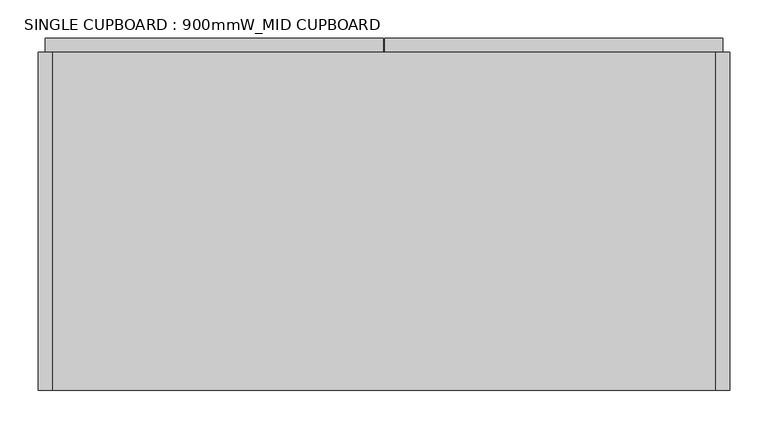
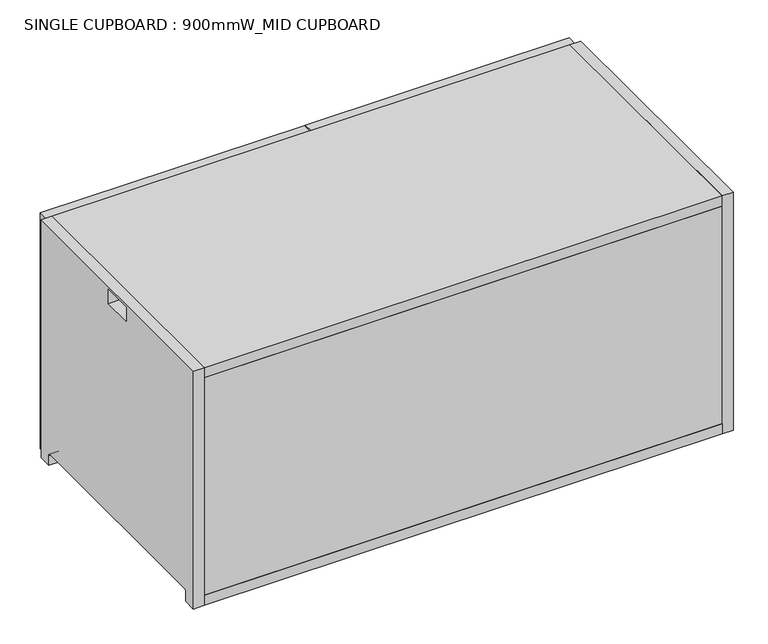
"""IFC4 building model written with IfcOpenShell, lengths in millimetres: furniture geometry, SINGLE CUPBOARD : 900mmW_MID CUPBOARD."""

from ifc_helpers import new_model, si_unit, point, frame, frame_2d, origin, place, context, project, spatial, polyline, circle_curve, trimmed, segment, composite_curve, outline, extrude, source, transform, mapped, element, save
from ifc_brep_helpers import plane_surface, revolved_surface, advanced_brep


def single_cupboard_900mmw_mid_cupboard_c5425165(model_context):
    return source(origin(), model_context, "Body", "SolidModel", [
        extrude(outline(composite_curve([segment(polyline([(220.0, 419.5), (220.0, 0.0), (198.0, 0.0), (198.0, 17.0)]), True, "CONTINUOUS"), segment(trimmed(circle_curve(frame_2d((194.0, 17.0)), 4.0), [point((198.0, 17.0))], [point((194.0, 21.0))], True, "CARTESIAN"), True, "CONTINUOUS"), segment(polyline([(194.0, 21.0), (-194.0, 21.0)]), True, "CONTINUOUS"), segment(trimmed(circle_curve(frame_2d((-194.0, 17.0)), 4.0), [point((-194.0, 21.0))], [point((-198.0, 17.0))], True, "CARTESIAN"), True, "CONTINUOUS"), segment(polyline([(-198.0, 17.0), (-198.0, 0.0), (-220.0, 0.0), (-220.0, 419.5), (220.0, 419.5)]), True, "CONTINUOUS")], self_intersect=False), holes=[polyline([(26.0, 414.5), (-26.0, 414.5), (-26.0, 389.5), (26.0, 389.5), (26.0, 414.5)])]), frame((-450.0, 0.0, 0.0), z_axis=(1.0, 0.0, 0.0), x_axis=(0.0, 1.0, 0.0)), (0.0, 0.0, 1.0), 18.0),
        advanced_brep(
        [(432.0, -220.0, 18.0), (432.0, 220.0, 18.0), (-432.0, 220.0, 18.0), (-432.0, 197.8729833, 18.0), (-426.1019215, 197.8729833, 18.0), (-426.1019215, -197.8729833, 18.0), (-432.0, -197.8729833, 18.0), (-432.0, -220.0, 18.0), (432.0, -220.0, 0.0), (-432.0, -220.0, 0.0), (-432.0, -198.0, 0.0), (-426.1019215, -198.0, 0.0), (-426.1019215, 198.0, 0.0), (-432.0, 198.0, 0.0), (-432.0, 220.0, 0.0), (432.0, 220.0, 0.0), (-432.0, -198.0, 17.0), (-432.0, 198.0, 17.0), (-426.1019215, -198.0, 17.0), (-426.1019215, 198.0, 17.0)],
        [
            (0, 1),
            (1, 2),
            (2, 3),
            (3, 4),
            (4, 5),
            (5, 6),
            (6, 7),
            (7, 0),
            (8, 9),
            (9, 10),
            (10, 11),
            (11, 12),
            (12, 13),
            (13, 14),
            (14, 15),
            (15, 8),
            (7, 9),
            (8, 0),
            (6, 16, circle_curve(frame((-432.0, -194.0, 17.0), z_axis=(1.0, 0.0, 0.0), x_axis=(0.0, -1.0, 0.0)), 4.0)),
            (16, 10),
            (13, 17),
            (17, 3, circle_curve(frame((-432.0, 194.0, 17.0), z_axis=(1.0, 0.0, 0.0), x_axis=(0.0, -1.0, 0.0)), 4.0)),
            (2, 14),
            (1, 15),
            (18, 5, circle_curve(frame((-426.1019215, -194.0, 17.0), z_axis=(-1.0, 0.0, 0.0), x_axis=(0.0, -1.0, 0.0)), 4.0)),
            (4, 19, circle_curve(frame((-426.1019215, 194.0, 17.0), z_axis=(-1.0, 0.0, 0.0), x_axis=(0.0, -1.0, 0.0)), 4.0)),
            (19, 12),
            (11, 18),
            (17, 19),
            (16, 18),
        ],
        [
            plane_surface(frame((-432.0, -220.0, 18.0), z_axis=(0.0, 0.0, 1.0), x_axis=(-1.0, 0.0, 0.0))),
            plane_surface(frame((-432.0, -220.0, 0.0), z_axis=(0.0, 0.0, -1.0), x_axis=(1.0, 0.0, 0.0))),
            plane_surface(frame((432.0, -220.0, 18.0), z_axis=(0.0, -1.0, 0.0), x_axis=(0.0, 0.0, -1.0))),
            plane_surface(frame((-432.0, -220.0, 18.0), z_axis=(-1.0, 0.0, 0.0), x_axis=(0.0, 0.0, -1.0))),
            plane_surface(frame((-432.0, 220.0, 18.0), z_axis=(0.0, 1.0, 0.0), x_axis=(0.0, 0.0, -1.0))),
            plane_surface(frame((432.0, 220.0, 18.0), z_axis=(1.0, 0.0, 0.0), x_axis=(0.0, 0.0, -1.0))),
            plane_surface(frame((-426.1019215, 190.0, 17.0), z_axis=(-1.0, 0.0, 0.0), x_axis=(0.0, 0.0, 1.0))),
            revolved_surface(polyline([(-426.1019215, 190.0, 17.0), (-432.0, 190.0, 17.0)]), (-456.0458228, 194.0, 17.0), (1.0, 0.0, 0.0)),
            plane_surface(frame((-426.1019215, 198.0, 17.0), z_axis=(0.0, -1.0, 0.0), x_axis=(-1.0, 0.0, 0.0))),
            plane_surface(frame((-426.1019215, -198.0, 0.0), z_axis=(0.0, 1.0, 0.0), x_axis=(-1.0, 0.0, 0.0))),
            revolved_surface(polyline([(-426.1019215, -198.0, 17.0), (-432.0, -198.0, 17.0)]), (-456.0458228, -194.0, 17.0), (1.0, 0.0, 0.0)),
        ],
        [
            (0, [[1, 2, 3, 4, 5, 6, 7, 8]]),
            (1, [[9, 10, 11, 12, 13, 14, 15, 16]]),
            (2, [[17, -9, 18, -8]]),
            (3, [[-7, 19, 20, -10, -17]]),
            (3, [[-14, 21, 22, -3, 23]]),
            (4, [[24, -15, -23, -2]]),
            (5, [[-18, -16, -24, -1]]),
            (6, [[25, -5, 26, 27, -12, 28]]),
            (7, [[-4, -22, 29, -26]]),
            (8, [[-29, -21, -13, -27]]),
            (9, [[-11, -20, 30, -28]]),
            (10, [[-30, -19, -6, -25]]),
        ],
    ),
        extrude(outline(composite_curve([segment(polyline([(220.0, 419.5), (220.0, 0.0), (198.0, 0.0), (198.0, 17.0)]), True, "CONTINUOUS"), segment(trimmed(circle_curve(frame_2d((194.0, 17.0)), 4.0), [point((198.0, 17.0))], [point((194.0, 21.0))], True, "CARTESIAN"), True, "CONTINUOUS"), segment(polyline([(194.0, 21.0), (-194.0, 21.0)]), True, "CONTINUOUS"), segment(trimmed(circle_curve(frame_2d((-194.0, 17.0)), 4.0), [point((-194.0, 21.0))], [point((-198.0, 17.0))], True, "CARTESIAN"), True, "CONTINUOUS"), segment(polyline([(-198.0, 17.0), (-198.0, 0.0), (-220.0, 0.0), (-220.0, 419.5), (220.0, 419.5)]), True, "CONTINUOUS")], self_intersect=False), holes=[polyline([(26.0, 414.5), (-26.0, 414.5), (-26.0, 389.5), (26.0, 389.5), (26.0, 414.5)])]), frame((432.0, 0.0, 0.0), z_axis=(1.0, 0.0, 0.0), x_axis=(0.0, 1.0, 0.0)), (0.0, 0.0, 1.0), 18.0),
        extrude(outline(polyline([(432.0, -220.0), (-432.0, -220.0), (-432.0, -202.0), (432.0, -202.0), (432.0, -220.0)])), frame((0.0, 0.0, 18.0), z_axis=(0.0, 0.0, 1.0), x_axis=(1.0, 0.0, 0.0)), (0.0, 0.0, 1.0), 383.5),
        extrude(outline(polyline([(432.0, -220.0), (-432.0, -220.0), (-432.0, 220.0), (432.0, 220.0), (432.0, -220.0)])), frame((0.0, 0.0, 401.5), z_axis=(0.0, 0.0, 1.0), x_axis=(1.0, 0.0, 0.0)), (0.0, 0.0, 1.0), 18.0),
        extrude(outline(polyline([(9.0, -202.0), (-9.0, -202.0), (-9.0, 220.0), (9.0, 220.0), (9.0, -202.0)])), frame((0.0, 0.0, 18.0), z_axis=(0.0, 0.0, 1.0), x_axis=(1.0, 0.0, 0.0)), (0.0, 0.0, 1.0), 383.5),
        extrude(outline(polyline([(441.0, 220.0), (1.0, 220.0), (1.0, 238.0), (441.0, 238.0), (441.0, 220.0)])), frame((0.0, 0.0, 2.0), z_axis=(0.0, 0.0, 1.0), x_axis=(1.0, 0.0, 0.0)), (0.0, 0.0, 1.0), 415.5),
        extrude(outline(polyline([(-441.0, 220.0), (-441.0, 238.0), (-1.0, 238.0), (-1.0, 220.0), (-441.0, 220.0)])), frame((0.0, 0.0, 2.0), z_axis=(0.0, 0.0, 1.0), x_axis=(1.0, 0.0, 0.0)), (0.0, 0.0, 1.0), 415.5),
    ])


if __name__ == "__main__":
    model = new_model("IFC4")
    model_context = context("Model", 3, world=origin())
    ifc_project = project(units=[si_unit("LENGTHUNIT", "METRE", prefix="MILLI")], contexts=[model_context])
    site = spatial("IfcSite", under=ifc_project)
    building = spatial("IfcBuilding", under=site)
    placement = place(None, origin())
    single_cupboard_900mmw_mid_cupboard_shape = single_cupboard_900mmw_mid_cupboard_c5425165(model_context)
    element("IfcFurniture", 1, ObjectType="SINGLE CUPBOARD : 900mmW_MID CUPBOARD", at=placement, inside=building, context=model_context, shape_type="MappedRepresentation", body=[
        mapped(single_cupboard_900mmw_mid_cupboard_shape, transform((0.0, 0.0, 0.0), x_axis=(1.0, 0.0, 0.0), y_axis=(0.0, 1.0, 0.0), z_axis=(0.0, 0.0, 1.0))),
    ])
    save(model, "model.ifc")
